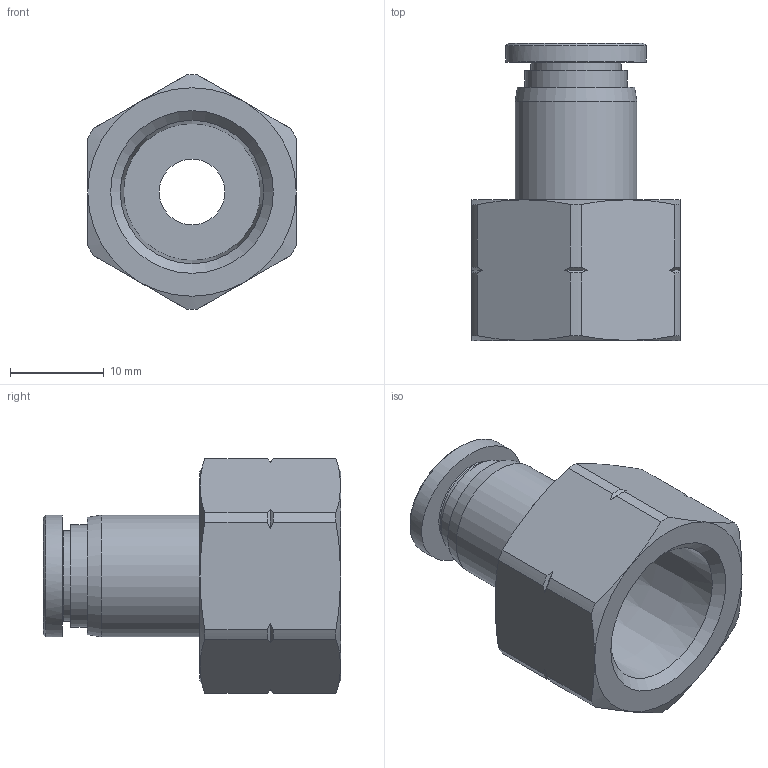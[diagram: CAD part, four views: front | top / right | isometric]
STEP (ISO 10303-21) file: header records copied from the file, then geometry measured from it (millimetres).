
FILE_DESCRIPTION((''),'2;1');
FILE_NAME('C:\Users\user0117\Desktop\김진일\G-FITTING INCH\5-16\카탈로그\G-FITTING INCH (STEP)\GPCF 5_16-N03U.stp','2020-04-13T15:55:39',('user0117'),(''),'Autodesk Inventor 2013','Autodesk Inventor 2013','');
FILE_SCHEMA(('AUTOMOTIVE_DESIGN { 1 0 10303 214 1 1 1 1 }'));
Length unit declared in the file: millimetre
Products named in the file (5): GPCF 5_16-N03U; GPCF BODY 5_16-N03U(BRASS); G-COLLAR 5-16C; COLLAR G08C; SLEEVE G08
Assembly tree (4 placements, depth 3):
  GPCF 5_16-N03U
    GPCF BODY 5_16-N03U(BRASS)
    G-COLLAR 5-16C
      COLLAR G08C
      SLEEVE G08
Bounding box: 22.23 x 31.7 x 25 mm (x, y, z)
Volume: 5219.6 mm3; surface area: 3875.4 mm2
Topology: 3 solids, 3 shells, 423 faces, 1178 edges, 781 vertices
Faces by surface type: plane 349, cone 29, cylinder 25, bspline 20
Full cylindrical faces by diameter (mm): 7 x1, 8.2 x3, 9.6 x1, 10.9 x1, 13 x1
Entity records: 13708 total; most frequent: CARTESIAN_POINT 2885, ORIENTED_EDGE 2322, DIRECTION 2045, EDGE_CURVE 1161, VECTOR 999, LINE 999, VERTEX_POINT 777, AXIS2_PLACEMENT_3D 523
